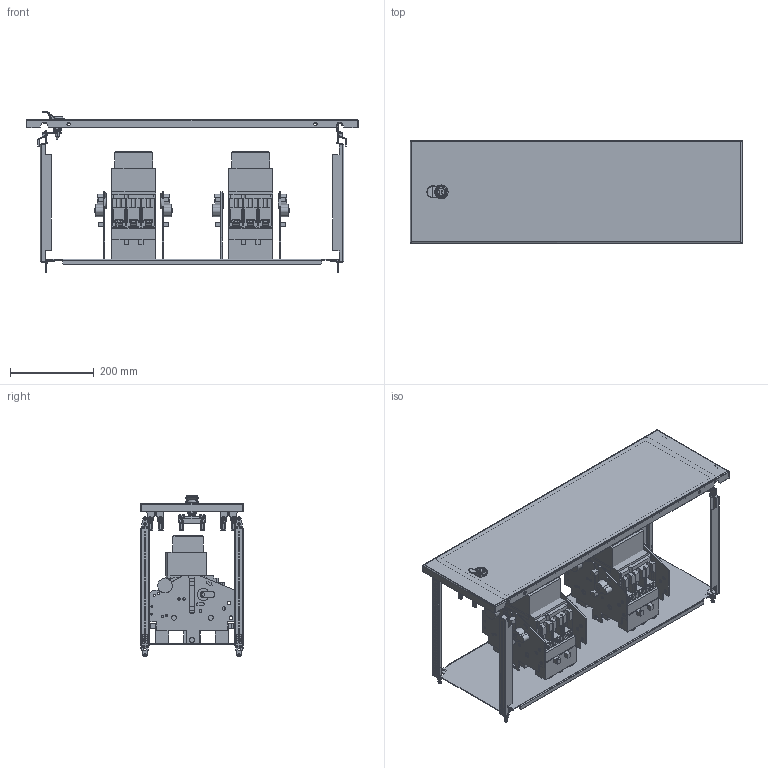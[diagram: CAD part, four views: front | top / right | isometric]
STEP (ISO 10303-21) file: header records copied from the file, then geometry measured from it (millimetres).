
FILE_DESCRIPTION(('CAx-IF Rec.Pracs.---Model Styling and Organization---1.2---2011-12-15','CAx-IF Rec.Pracs.---Geometric and Assembly Validation Properties---4.1---2014-06-16','CAx-IF Rec.Pracs.---PMI Polyline Presentation---2.0---2013-05-24'),'2;1');
FILE_NAME('R5PKEB7V81913 (W-MO).stp','2021-07-29T02:53:39+03:00',(''),(''),'STEP Interface 4.4 by CT CoreTechnologie','3D_Evolution4.4 by CT CoreTechnologie','');
FILE_SCHEMA(('AUTOMOTIVE_DESIGN { 1 0 10303 214 1 1 1 1 }'));
Length unit declared in the file: millimetre
Products named in the file (1): R5PKEB7V81913 (W-MO)
Bounding box: 794 x 245 x 386.89 mm (x, y, z)
Surface area: 1915095.2 mm2 (no closed solid volume)
Topology: 0 solids, 106 shells, 4164 faces, 11692 edges, 7734 vertices
Faces by surface type: plane 2472, cylinder 1312, bspline 380
Entity records: 144437 total; most frequent: CARTESIAN_POINT 35057, ORIENTED_EDGE 23282, DIRECTION 21934, EDGE_CURVE 11649, VECTOR 8384, LINE 8384, VERTEX_POINT 7770, AXIS2_PLACEMENT_3D 6775
